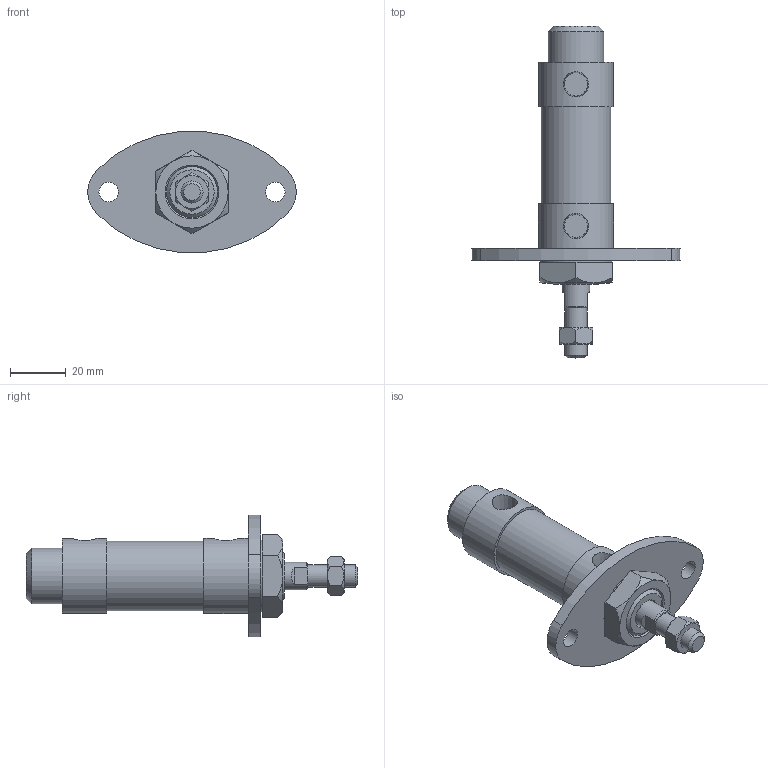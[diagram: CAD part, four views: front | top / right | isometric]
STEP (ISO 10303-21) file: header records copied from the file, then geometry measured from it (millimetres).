
FILE_DESCRIPTION(/* description */ ('Unknown'),/* implementation_level */ '2;1');
FILE_NAME(/* name */ 'WK20-0-FA',/* time_stamp */ '2026-07-17T16:28:29+08:00',/* author */ ('Unknown'),/* organization */ ('Unknown'),/* preprocessor_version */ 'ST-DEVELOPER v16.7',/* originating_system */ 'DEX',/* authorisation */ $);
FILE_SCHEMA (('CONFIG_CONTROL_DESIGN'));
Length unit declared in the file: millimetre
Products named in the file (8): WK20-FA; WK20_玡嶈搵; WK20_ｾT∫ｮ｡; WK20_後; WK20_心軸活; M20-1.5P-8_螺; M8-1.25P-6_螺; WK20_FA
Assembly tree (7 placements, depth 2):
  WK20-FA
    WK20_玡嶈搵
    WK20_ｾT∫ｮ｡
    WK20_後
    WK20_心軸活
    M20-1.5P-8_螺
    M8-1.25P-6_螺
    WK20_FA
Bounding box: 74.92 x 119.5 x 43.63 mm (x, y, z)
Volume: 57396.7 mm3; surface area: 25736.1 mm2
Topology: 7 solids, 7 shells, 89 faces, 186 edges, 118 vertices
Faces by surface type: plane 45, cylinder 22, cone 22
Full cylindrical faces by diameter (mm): 6.8 x1, 7 x2, 8 x1, 10 x2, 18.376 x1, 19.5 x1, 20 x4, 22 x2, 25 x1, 26 x1, 27 x2
Entity records: 2945 total; most frequent: CARTESIAN_POINT 509, DIRECTION 382, ORIENTED_EDGE 286, AXIS2_PLACEMENT_3D 172, EDGE_CURVE 143, EDGE_LOOP 142, FACE_BOUND 142, VERTEX_POINT 107
